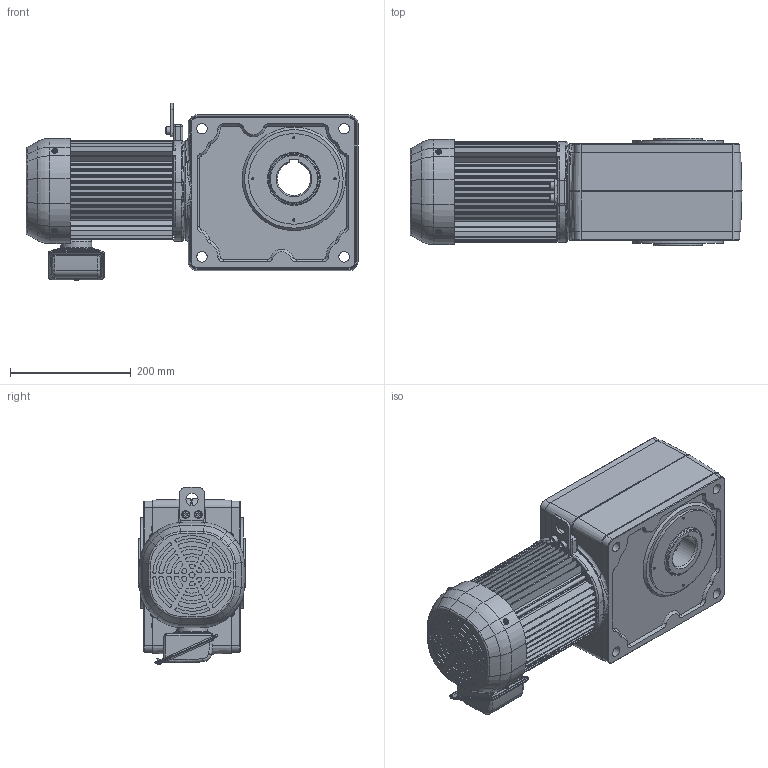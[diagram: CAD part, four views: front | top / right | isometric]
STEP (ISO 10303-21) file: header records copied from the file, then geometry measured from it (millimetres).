
FILE_DESCRIPTION( ( 'Unknown' ), '1' );
FILE_NAME( 'X:/gear/gm/3D-WEB/IE3/SHYP/ﾊﾟｰﾂ/完成品/shypmrh_15_80-240.stp', 'Unknown', ( 'Unknown' ), ( 'Unknown' ), 'PSStep 14.0', 'Unknown', ' ' );
FILE_SCHEMA( ( 'AUTOMOTIVE_DESIGN { 1 0 10303 214 1 1 1 1 }' ) );
Length unit declared in the file: millimetre
Products named in the file (2): 六角穴付ボルト(M12X16)
Bounding box: 549 x 178 x 293.35 mm (x, y, z)
Volume: 15868298.7 mm3; surface area: 990630.9 mm2
Topology: 2 solids, 31 shells, 1593 faces, 3903 edges, 2480 vertices
Faces by surface type: plane 664, cylinder 644, cone 122, torus 88, bspline 67, sphere 8
Full cylindrical faces by diameter (mm): 2 x4, 3.6 x8, 3.8 x6, 4.2 x8, 4.8 x1, 4.917 x8, 5.5 x4, 5.6 x1, 5.8 x4, 6 x12, 7 x5, 8 x4, 8.376 x4, 10 x12, 11 x4, 12 x6, 13 x2, 14 x6, 17.294 x4, 18 x6, 20 x7, 23 x1, 25 x3, 26.3 x1, 28.6 x1, 48 x2, 50 x1, 51.2 x1, 79.8 x2, 80 x4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
Entity records: 66449 total; most frequent: CARTESIAN_POINT 16551, DIRECTION 8220, ORIENTED_EDGE 7190, EDGE_CURVE 3595, AXIS2_PLACEMENT_3D 3246, VERTEX_POINT 2413, EDGE_LOOP 1968, FACE_OUTER_BOUND 1762
